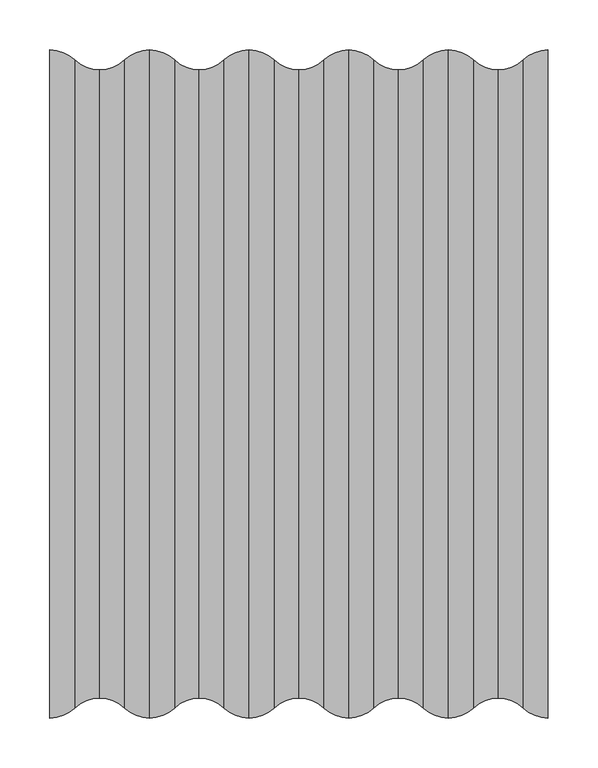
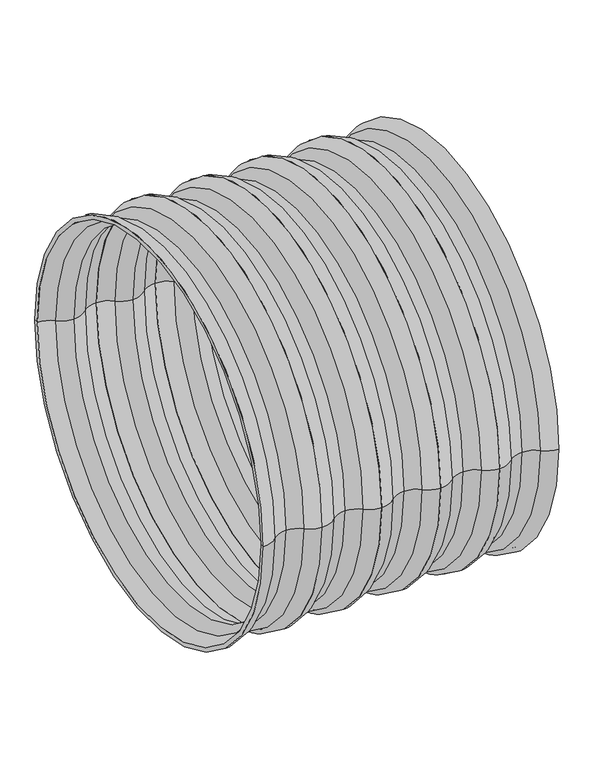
"""IFC4 building model written with IfcOpenShell, lengths in millimetres: pipe fitting geometry, Z_PIF_UN_Q-Bic_Plus_Shaft_Pipe_Wavin_(nested) : PP, RAL8012, ø600mm."""

from ifc_helpers import new_model, si_unit, point, frame, origin, place, context, project, spatial, circle_curve, ellipse_curve, trimmed, source, transform, mapped, element, save
from ifc_brep_helpers import plane_surface, revolved_surface, advanced_brep


def pipe_fitting_1d322cda(model_context):
    return source(origin(), model_context, "Body", "AdvancedBrep", [
        advanced_brep(
        [(900.0, -335.0, 0.0), (900.0, 335.0, 0.0), (925.0, 325.0, 0.0), (925.0, -325.0, 0.0), (900.0, -328.0, 0.0), (900.0, 328.0, 0.0), (925.0, -318.0, 0.0), (925.0, 318.0, 0.0), (950.0, -308.0, 0.0), (950.0, 308.0, 0.0), (975.0, -318.0, 0.0), (975.0, 318.0, 0.0), (1000.0, -328.0, 0.0), (1000.0, 328.0, 0.0), (1000.0, -335.0, 0.0), (1000.0, 335.0, 0.0), (975.0, -325.0, 0.0), (975.0, 325.0, 0.0), (950.0, -315.0, 0.0), (950.0, 315.0, 0.0)],
        [
            (0, 1, circle_curve(frame((900.0, 0.0, 0.0), z_axis=(1.0, 0.0, 0.0), x_axis=(0.0, 1.0, 0.0)), 335.0)),
            (1, 2, circle_curve(frame((900.0, 298.75, 0.0), z_axis=(0.0, 0.0, -1.0), x_axis=(1.0, 0.0, 0.0)), 36.25)),
            (2, 3, circle_curve(frame((925.0, 0.0, 0.0), z_axis=(-1.0, 0.0, 0.0), x_axis=(0.0, 1.0, 0.0)), 325.0)),
            (3, 0, circle_curve(frame((900.0, -298.75, 0.0), z_axis=(0.0, 0.0, -1.0), x_axis=(1.0, 0.0, 0.0)), 36.25)),
            (1, 0, circle_curve(frame((900.0, 0.0, 0.0), z_axis=(1.0, 0.0, 0.0), x_axis=(0.0, 1.0, 0.0)), 335.0)),
            (3, 2, circle_curve(frame((925.0, 0.0, 0.0), z_axis=(-1.0, 0.0, 0.0), x_axis=(0.0, 1.0, 0.0)), 325.0)),
            (4, 5, circle_curve(frame((900.0, 0.0, 0.0), z_axis=(1.0, 0.0, 0.0), x_axis=(0.0, 1.0, 0.0)), 328.0)),
            (5, 1),
            (0, 4),
            (5, 4, circle_curve(frame((900.0, 0.0, 0.0), z_axis=(1.0, 0.0, 0.0), x_axis=(0.0, 1.0, 0.0)), 328.0)),
            (6, 7, circle_curve(frame((925.0, 0.0, 0.0), z_axis=(1.0, 0.0, 0.0), x_axis=(0.0, 1.0, 0.0)), 318.0)),
            (7, 5, circle_curve(frame((900.0, 291.75, 0.0), z_axis=(0.0, 0.0, 1.0), x_axis=(1.0, 0.0, 0.0)), 36.25)),
            (4, 6, circle_curve(frame((900.0, -291.75, 0.0), z_axis=(0.0, 0.0, 1.0), x_axis=(1.0, 0.0, 0.0)), 36.25)),
            (7, 6, circle_curve(frame((925.0, 0.0, 0.0), z_axis=(1.0, 0.0, 0.0), x_axis=(0.0, 1.0, 0.0)), 318.0)),
            (8, 9, circle_curve(frame((950.0, 0.0, 0.0), z_axis=(1.0, 0.0, 0.0), x_axis=(0.0, 1.0, 0.0)), 308.0)),
            (9, 7, circle_curve(frame((950.0, 344.25, 0.0), z_axis=(0.0, 0.0, -1.0), x_axis=(1.0, 0.0, 0.0)), 36.25)),
            (6, 8, circle_curve(frame((950.0, -344.25, 0.0), z_axis=(0.0, 0.0, -1.0), x_axis=(1.0, 0.0, 0.0)), 36.25)),
            (9, 8, circle_curve(frame((950.0, 0.0, 0.0), z_axis=(1.0, 0.0, 0.0), x_axis=(0.0, 1.0, 0.0)), 308.0)),
            (10, 11, circle_curve(frame((975.0, 0.0, 0.0), z_axis=(1.0, 0.0, 0.0), x_axis=(0.0, 1.0, 0.0)), 318.0)),
            (11, 9, circle_curve(frame((950.0, 344.25, 0.0), z_axis=(0.0, 0.0, -1.0), x_axis=(1.0, 0.0, 0.0)), 36.25)),
            (8, 10, circle_curve(frame((950.0, -344.25, 0.0), z_axis=(0.0, 0.0, -1.0), x_axis=(1.0, 0.0, 0.0)), 36.25)),
            (11, 10, circle_curve(frame((975.0, 0.0, 0.0), z_axis=(1.0, 0.0, 0.0), x_axis=(0.0, 1.0, 0.0)), 318.0)),
            (12, 13, circle_curve(frame((1000.0, 0.0, 0.0), z_axis=(1.0, 0.0, 0.0), x_axis=(0.0, 1.0, 0.0)), 328.0)),
            (13, 11, circle_curve(frame((1000.0, 291.75, 0.0), z_axis=(0.0, 0.0, 1.0), x_axis=(1.0, 0.0, 0.0)), 36.25)),
            (10, 12, circle_curve(frame((1000.0, -291.75, 0.0), z_axis=(0.0, 0.0, 1.0), x_axis=(1.0, 0.0, 0.0)), 36.25)),
            (13, 12, circle_curve(frame((1000.0, 0.0, 0.0), z_axis=(1.0, 0.0, 0.0), x_axis=(0.0, 1.0, 0.0)), 328.0)),
            (14, 15, circle_curve(frame((1000.0, 0.0, 0.0), z_axis=(1.0, 0.0, 0.0), x_axis=(0.0, 1.0, 0.0)), 335.0)),
            (15, 13),
            (12, 14),
            (15, 14, circle_curve(frame((1000.0, 0.0, 0.0), z_axis=(1.0, 0.0, 0.0), x_axis=(0.0, 1.0, 0.0)), 335.0)),
            (16, 17, circle_curve(frame((975.0, 0.0, 0.0), z_axis=(1.0, 0.0, 0.0), x_axis=(0.0, 1.0, 0.0)), 325.0)),
            (17, 15, circle_curve(frame((1000.0, 298.75, 0.0), z_axis=(0.0, 0.0, -1.0), x_axis=(1.0, 0.0, 0.0)), 36.25)),
            (14, 16, circle_curve(frame((1000.0, -298.75, 0.0), z_axis=(0.0, 0.0, -1.0), x_axis=(1.0, 0.0, 0.0)), 36.25)),
            (17, 16, circle_curve(frame((975.0, 0.0, 0.0), z_axis=(1.0, 0.0, 0.0), x_axis=(0.0, 1.0, 0.0)), 325.0)),
            (18, 19, circle_curve(frame((950.0, 0.0, 0.0), z_axis=(1.0, 0.0, 0.0), x_axis=(0.0, 1.0, 0.0)), 315.0)),
            (19, 17, circle_curve(frame((950.0, 351.25, 0.0), z_axis=(0.0, 0.0, 1.0), x_axis=(1.0, 0.0, 0.0)), 36.25)),
            (16, 18, circle_curve(frame((950.0, -351.25, 0.0), z_axis=(0.0, 0.0, 1.0), x_axis=(1.0, 0.0, 0.0)), 36.25)),
            (19, 18, circle_curve(frame((950.0, 0.0, 0.0), z_axis=(1.0, 0.0, 0.0), x_axis=(0.0, 1.0, 0.0)), 315.0)),
            (2, 19, circle_curve(frame((950.0, 351.25, 0.0), z_axis=(0.0, 0.0, 1.0), x_axis=(1.0, 0.0, 0.0)), 36.25)),
            (18, 3, circle_curve(frame((950.0, -351.25, 0.0), z_axis=(0.0, 0.0, 1.0), x_axis=(1.0, 0.0, 0.0)), 36.25)),
        ],
        [
            revolved_surface(trimmed(ellipse_curve(frame((900.0, 298.75, 0.0), z_axis=(0.0, 0.0, 1.0), x_axis=(1.0, 0.0, 0.0)), 36.25, 36.25), [point((925.0, 325.0, 0.0))], [point((900.0, 335.0, 0.0))], True, "CARTESIAN"), (850.0, 0.0, 0.0), (-1.0, 0.0, 0.0)),
            plane_surface(frame((900.0, 0.0, 0.0), z_axis=(-1.0, 0.0, 0.0), x_axis=(0.0, 1.0, 0.0))),
            revolved_surface(trimmed(ellipse_curve(frame((900.0, 291.75, 0.0), z_axis=(0.0, 0.0, -1.0), x_axis=(1.0, 0.0, 0.0)), 36.25, 36.25), [point((900.0, 328.0, 0.0))], [point((925.0, 318.0, 0.0))], True, "CARTESIAN"), (850.0, 0.0, 0.0), (-1.0, 0.0, 0.0)),
            revolved_surface(trimmed(ellipse_curve(frame((950.0, 344.25, 0.0), z_axis=(0.0, 0.0, 1.0), x_axis=(1.0, 0.0, 0.0)), 36.25, 36.25), [point((925.0, 318.0, 0.0))], [point((950.0, 308.0, 0.0))], True, "CARTESIAN"), (850.0, 0.0, 0.0), (-1.0, 0.0, 0.0)),
            revolved_surface(trimmed(ellipse_curve(frame((950.0, 344.25, 0.0), z_axis=(0.0, 0.0, 1.0), x_axis=(1.0, 0.0, 0.0)), 36.25, 36.25), [point((950.0, 308.0, 0.0))], [point((975.0, 318.0, 0.0))], True, "CARTESIAN"), (850.0, 0.0, 0.0), (-1.0, 0.0, 0.0)),
            revolved_surface(trimmed(ellipse_curve(frame((1000.0, 291.75, 0.0), z_axis=(0.0, 0.0, -1.0), x_axis=(1.0, 0.0, 0.0)), 36.25, 36.25), [point((975.0, 318.0, 0.0))], [point((1000.0, 328.0, 0.0))], True, "CARTESIAN"), (850.0, 0.0, 0.0), (-1.0, 0.0, 0.0)),
            plane_surface(frame((1000.0, 0.0, 0.0), z_axis=(1.0, 0.0, 0.0), x_axis=(0.0, 1.0, 0.0))),
            revolved_surface(trimmed(ellipse_curve(frame((1000.0, 298.75, 0.0), z_axis=(0.0, 0.0, 1.0), x_axis=(1.0, 0.0, 0.0)), 36.25, 36.25), [point((1000.0, 335.0, 0.0))], [point((975.0, 325.0, 0.0))], True, "CARTESIAN"), (850.0, 0.0, 0.0), (-1.0, 0.0, 0.0)),
            revolved_surface(trimmed(ellipse_curve(frame((950.0, 351.25, 0.0), z_axis=(0.0, 0.0, -1.0), x_axis=(1.0, 0.0, 0.0)), 36.25, 36.25), [point((975.0, 325.0, 0.0))], [point((950.0, 315.0, 0.0))], True, "CARTESIAN"), (850.0, 0.0, 0.0), (-1.0, 0.0, 0.0)),
            revolved_surface(trimmed(ellipse_curve(frame((950.0, 351.25, 0.0), z_axis=(0.0, 0.0, -1.0), x_axis=(1.0, 0.0, 0.0)), 36.25, 36.25), [point((950.0, 315.0, 0.0))], [point((925.0, 325.0, 0.0))], True, "CARTESIAN"), (850.0, 0.0, 0.0), (-1.0, 0.0, 0.0)),
        ],
        [
            (0, [[1, 2, 3, 4]]),
            (0, [[5, -4, 6, -2]]),
            (1, [[7, 8, -1, 9]]),
            (1, [[10, -9, -5, -8]]),
            (2, [[11, 12, -7, 13]]),
            (2, [[14, -13, -10, -12]]),
            (3, [[15, 16, -11, 17]]),
            (3, [[18, -17, -14, -16]]),
            (4, [[19, 20, -15, 21]]),
            (4, [[22, -21, -18, -20]]),
            (5, [[23, 24, -19, 25]]),
            (5, [[26, -25, -22, -24]]),
            (6, [[27, 28, -23, 29]]),
            (6, [[30, -29, -26, -28]]),
            (7, [[31, 32, -27, 33]]),
            (7, [[34, -33, -30, -32]]),
            (8, [[35, 36, -31, 37]]),
            (8, [[38, -37, -34, -36]]),
            (9, [[-3, 39, -35, 40]]),
            (9, [[-6, -40, -38, -39]]),
        ],
    ),
        advanced_brep(
        [(800.0, -335.0, 0.0), (800.0, 335.0, 0.0), (825.0, 325.0, 0.0), (825.0, -325.0, 0.0), (800.0, -328.0, 0.0), (800.0, 328.0, 0.0), (825.0, -318.0, 0.0), (825.0, 318.0, 0.0), (850.0, -308.0, 0.0), (850.0, 308.0, 0.0), (875.0, -318.0, 0.0), (875.0, 318.0, 0.0), (900.0, -328.0, 0.0), (900.0, 328.0, 0.0), (900.0, -335.0, 0.0), (900.0, 335.0, 0.0), (875.0, -325.0, 0.0), (875.0, 325.0, 0.0), (850.0, -315.0, 0.0), (850.0, 315.0, 0.0)],
        [
            (0, 1, circle_curve(frame((800.0, 0.0, 0.0), z_axis=(1.0, 0.0, 0.0), x_axis=(0.0, 1.0, 0.0)), 335.0)),
            (1, 2, circle_curve(frame((800.0, 298.75, 0.0), z_axis=(0.0, 0.0, -1.0), x_axis=(1.0, 0.0, 0.0)), 36.25)),
            (2, 3, circle_curve(frame((825.0, 0.0, 0.0), z_axis=(-1.0, 0.0, 0.0), x_axis=(0.0, 1.0, 0.0)), 325.0)),
            (3, 0, circle_curve(frame((800.0, -298.75, 0.0), z_axis=(0.0, 0.0, -1.0), x_axis=(1.0, 0.0, 0.0)), 36.25)),
            (1, 0, circle_curve(frame((800.0, 0.0, 0.0), z_axis=(1.0, 0.0, 0.0), x_axis=(0.0, 1.0, 0.0)), 335.0)),
            (3, 2, circle_curve(frame((825.0, 0.0, 0.0), z_axis=(-1.0, 0.0, 0.0), x_axis=(0.0, 1.0, 0.0)), 325.0)),
            (4, 5, circle_curve(frame((800.0, 0.0, 0.0), z_axis=(1.0, 0.0, 0.0), x_axis=(0.0, 1.0, 0.0)), 328.0)),
            (5, 1),
            (0, 4),
            (5, 4, circle_curve(frame((800.0, 0.0, 0.0), z_axis=(1.0, 0.0, 0.0), x_axis=(0.0, 1.0, 0.0)), 328.0)),
            (6, 7, circle_curve(frame((825.0, 0.0, 0.0), z_axis=(1.0, 0.0, 0.0), x_axis=(0.0, 1.0, 0.0)), 318.0)),
            (7, 5, circle_curve(frame((800.0, 291.75, 0.0), z_axis=(0.0, 0.0, 1.0), x_axis=(1.0, 0.0, 0.0)), 36.25)),
            (4, 6, circle_curve(frame((800.0, -291.75, 0.0), z_axis=(0.0, 0.0, 1.0), x_axis=(1.0, 0.0, 0.0)), 36.25)),
            (7, 6, circle_curve(frame((825.0, 0.0, 0.0), z_axis=(1.0, 0.0, 0.0), x_axis=(0.0, 1.0, 0.0)), 318.0)),
            (8, 9, circle_curve(frame((850.0, 0.0, 0.0), z_axis=(1.0, 0.0, 0.0), x_axis=(0.0, 1.0, 0.0)), 308.0)),
            (9, 7, circle_curve(frame((850.0, 344.25, 0.0), z_axis=(0.0, 0.0, -1.0), x_axis=(1.0, 0.0, 0.0)), 36.25)),
            (6, 8, circle_curve(frame((850.0, -344.25, 0.0), z_axis=(0.0, 0.0, -1.0), x_axis=(1.0, 0.0, 0.0)), 36.25)),
            (9, 8, circle_curve(frame((850.0, 0.0, 0.0), z_axis=(1.0, 0.0, 0.0), x_axis=(0.0, 1.0, 0.0)), 308.0)),
            (10, 11, circle_curve(frame((875.0, 0.0, 0.0), z_axis=(1.0, 0.0, 0.0), x_axis=(0.0, 1.0, 0.0)), 318.0)),
            (11, 9, circle_curve(frame((850.0, 344.25, 0.0), z_axis=(0.0, 0.0, -1.0), x_axis=(1.0, 0.0, 0.0)), 36.25)),
            (8, 10, circle_curve(frame((850.0, -344.25, 0.0), z_axis=(0.0, 0.0, -1.0), x_axis=(1.0, 0.0, 0.0)), 36.25)),
            (11, 10, circle_curve(frame((875.0, 0.0, 0.0), z_axis=(1.0, 0.0, 0.0), x_axis=(0.0, 1.0, 0.0)), 318.0)),
            (12, 13, circle_curve(frame((900.0, 0.0, 0.0), z_axis=(1.0, 0.0, 0.0), x_axis=(0.0, 1.0, 0.0)), 328.0)),
            (13, 11, circle_curve(frame((900.0, 291.75, 0.0), z_axis=(0.0, 0.0, 1.0), x_axis=(1.0, 0.0, 0.0)), 36.25)),
            (10, 12, circle_curve(frame((900.0, -291.75, 0.0), z_axis=(0.0, 0.0, 1.0), x_axis=(1.0, 0.0, 0.0)), 36.25)),
            (13, 12, circle_curve(frame((900.0, 0.0, 0.0), z_axis=(1.0, 0.0, 0.0), x_axis=(0.0, 1.0, 0.0)), 328.0)),
            (14, 15, circle_curve(frame((900.0, 0.0, 0.0), z_axis=(1.0, 0.0, 0.0), x_axis=(0.0, 1.0, 0.0)), 335.0)),
            (15, 13),
            (12, 14),
            (15, 14, circle_curve(frame((900.0, 0.0, 0.0), z_axis=(1.0, 0.0, 0.0), x_axis=(0.0, 1.0, 0.0)), 335.0)),
            (16, 17, circle_curve(frame((875.0, 0.0, 0.0), z_axis=(1.0, 0.0, 0.0), x_axis=(0.0, 1.0, 0.0)), 325.0)),
            (17, 15, circle_curve(frame((900.0, 298.75, 0.0), z_axis=(0.0, 0.0, -1.0), x_axis=(1.0, 0.0, 0.0)), 36.25)),
            (14, 16, circle_curve(frame((900.0, -298.75, 0.0), z_axis=(0.0, 0.0, -1.0), x_axis=(1.0, 0.0, 0.0)), 36.25)),
            (17, 16, circle_curve(frame((875.0, 0.0, 0.0), z_axis=(1.0, 0.0, 0.0), x_axis=(0.0, 1.0, 0.0)), 325.0)),
            (18, 19, circle_curve(frame((850.0, 0.0, 0.0), z_axis=(1.0, 0.0, 0.0), x_axis=(0.0, 1.0, 0.0)), 315.0)),
            (19, 17, circle_curve(frame((850.0, 351.25, 0.0), z_axis=(0.0, 0.0, 1.0), x_axis=(1.0, 0.0, 0.0)), 36.25)),
            (16, 18, circle_curve(frame((850.0, -351.25, 0.0), z_axis=(0.0, 0.0, 1.0), x_axis=(1.0, 0.0, 0.0)), 36.25)),
            (19, 18, circle_curve(frame((850.0, 0.0, 0.0), z_axis=(1.0, 0.0, 0.0), x_axis=(0.0, 1.0, 0.0)), 315.0)),
            (2, 19, circle_curve(frame((850.0, 351.25, 0.0), z_axis=(0.0, 0.0, 1.0), x_axis=(1.0, 0.0, 0.0)), 36.25)),
            (18, 3, circle_curve(frame((850.0, -351.25, 0.0), z_axis=(0.0, 0.0, 1.0), x_axis=(1.0, 0.0, 0.0)), 36.25)),
        ],
        [
            revolved_surface(trimmed(ellipse_curve(frame((800.0, 298.75, 0.0), z_axis=(0.0, 0.0, 1.0), x_axis=(1.0, 0.0, 0.0)), 36.25, 36.25), [point((825.0, 325.0, 0.0))], [point((800.0, 335.0, 0.0))], True, "CARTESIAN"), (750.0, 0.0, 0.0), (-1.0, 0.0, 0.0)),
            plane_surface(frame((800.0, 0.0, 0.0), z_axis=(-1.0, 0.0, 0.0), x_axis=(0.0, 1.0, 0.0))),
            revolved_surface(trimmed(ellipse_curve(frame((800.0, 291.75, 0.0), z_axis=(0.0, 0.0, -1.0), x_axis=(1.0, 0.0, 0.0)), 36.25, 36.25), [point((800.0, 328.0, 0.0))], [point((825.0, 318.0, 0.0))], True, "CARTESIAN"), (750.0, 0.0, 0.0), (-1.0, 0.0, 0.0)),
            revolved_surface(trimmed(ellipse_curve(frame((850.0, 344.25, 0.0), z_axis=(0.0, 0.0, 1.0), x_axis=(1.0, 0.0, 0.0)), 36.25, 36.25), [point((825.0, 318.0, 0.0))], [point((850.0, 308.0, 0.0))], True, "CARTESIAN"), (750.0, 0.0, 0.0), (-1.0, 0.0, 0.0)),
            revolved_surface(trimmed(ellipse_curve(frame((850.0, 344.25, 0.0), z_axis=(0.0, 0.0, 1.0), x_axis=(1.0, 0.0, 0.0)), 36.25, 36.25), [point((850.0, 308.0, 0.0))], [point((875.0, 318.0, 0.0))], True, "CARTESIAN"), (750.0, 0.0, 0.0), (-1.0, 0.0, 0.0)),
            revolved_surface(trimmed(ellipse_curve(frame((900.0, 291.75, 0.0), z_axis=(0.0, 0.0, -1.0), x_axis=(1.0, 0.0, 0.0)), 36.25, 36.25), [point((875.0, 318.0, 0.0))], [point((900.0, 328.0, 0.0))], True, "CARTESIAN"), (750.0, 0.0, 0.0), (-1.0, 0.0, 0.0)),
            plane_surface(frame((900.0, 0.0, 0.0), z_axis=(1.0, 0.0, 0.0), x_axis=(0.0, 1.0, 0.0))),
            revolved_surface(trimmed(ellipse_curve(frame((900.0, 298.75, 0.0), z_axis=(0.0, 0.0, 1.0), x_axis=(1.0, 0.0, 0.0)), 36.25, 36.25), [point((900.0, 335.0, 0.0))], [point((875.0, 325.0, 0.0))], True, "CARTESIAN"), (750.0, 0.0, 0.0), (-1.0, 0.0, 0.0)),
            revolved_surface(trimmed(ellipse_curve(frame((850.0, 351.25, 0.0), z_axis=(0.0, 0.0, -1.0), x_axis=(1.0, 0.0, 0.0)), 36.25, 36.25), [point((875.0, 325.0, 0.0))], [point((850.0, 315.0, 0.0))], True, "CARTESIAN"), (750.0, 0.0, 0.0), (-1.0, 0.0, 0.0)),
            revolved_surface(trimmed(ellipse_curve(frame((850.0, 351.25, 0.0), z_axis=(0.0, 0.0, -1.0), x_axis=(1.0, 0.0, 0.0)), 36.25, 36.25), [point((850.0, 315.0, 0.0))], [point((825.0, 325.0, 0.0))], True, "CARTESIAN"), (750.0, 0.0, 0.0), (-1.0, 0.0, 0.0)),
        ],
        [
            (0, [[1, 2, 3, 4]]),
            (0, [[5, -4, 6, -2]]),
            (1, [[7, 8, -1, 9]]),
            (1, [[10, -9, -5, -8]]),
            (2, [[11, 12, -7, 13]]),
            (2, [[14, -13, -10, -12]]),
            (3, [[15, 16, -11, 17]]),
            (3, [[18, -17, -14, -16]]),
            (4, [[19, 20, -15, 21]]),
            (4, [[22, -21, -18, -20]]),
            (5, [[23, 24, -19, 25]]),
            (5, [[26, -25, -22, -24]]),
            (6, [[27, 28, -23, 29]]),
            (6, [[30, -29, -26, -28]]),
            (7, [[31, 32, -27, 33]]),
            (7, [[34, -33, -30, -32]]),
            (8, [[35, 36, -31, 37]]),
            (8, [[38, -37, -34, -36]]),
            (9, [[-3, 39, -35, 40]]),
            (9, [[-6, -40, -38, -39]]),
        ],
    ),
        advanced_brep(
        [(700.0, -335.0, 0.0), (700.0, 335.0, 0.0), (725.0, 325.0, 0.0), (725.0, -325.0, 0.0), (700.0, -328.0, 0.0), (700.0, 328.0, 0.0), (725.0, -318.0, 0.0), (725.0, 318.0, 0.0), (750.0, -308.0, 0.0), (750.0, 308.0, 0.0), (775.0, -318.0, 0.0), (775.0, 318.0, 0.0), (800.0, -328.0, 0.0), (800.0, 328.0, 0.0), (800.0, -335.0, 0.0), (800.0, 335.0, 0.0), (775.0, -325.0, 0.0), (775.0, 325.0, 0.0), (750.0, -315.0, 0.0), (750.0, 315.0, 0.0)],
        [
            (0, 1, circle_curve(frame((700.0, 0.0, 0.0), z_axis=(1.0, 0.0, 0.0), x_axis=(0.0, 1.0, 0.0)), 335.0)),
            (1, 2, circle_curve(frame((700.0, 298.75, 0.0), z_axis=(0.0, 0.0, -1.0), x_axis=(1.0, 0.0, 0.0)), 36.25)),
            (2, 3, circle_curve(frame((725.0, 0.0, 0.0), z_axis=(-1.0, 0.0, 0.0), x_axis=(0.0, 1.0, 0.0)), 325.0)),
            (3, 0, circle_curve(frame((700.0, -298.75, 0.0), z_axis=(0.0, 0.0, -1.0), x_axis=(1.0, 0.0, 0.0)), 36.25)),
            (1, 0, circle_curve(frame((700.0, 0.0, 0.0), z_axis=(1.0, 0.0, 0.0), x_axis=(0.0, 1.0, 0.0)), 335.0)),
            (3, 2, circle_curve(frame((725.0, 0.0, 0.0), z_axis=(-1.0, 0.0, 0.0), x_axis=(0.0, 1.0, 0.0)), 325.0)),
            (4, 5, circle_curve(frame((700.0, 0.0, 0.0), z_axis=(1.0, 0.0, 0.0), x_axis=(0.0, 1.0, 0.0)), 328.0)),
            (5, 1),
            (0, 4),
            (5, 4, circle_curve(frame((700.0, 0.0, 0.0), z_axis=(1.0, 0.0, 0.0), x_axis=(0.0, 1.0, 0.0)), 328.0)),
            (6, 7, circle_curve(frame((725.0, 0.0, 0.0), z_axis=(1.0, 0.0, 0.0), x_axis=(0.0, 1.0, 0.0)), 318.0)),
            (7, 5, circle_curve(frame((700.0, 291.75, 0.0), z_axis=(0.0, 0.0, 1.0), x_axis=(1.0, 0.0, 0.0)), 36.25)),
            (4, 6, circle_curve(frame((700.0, -291.75, 0.0), z_axis=(0.0, 0.0, 1.0), x_axis=(1.0, 0.0, 0.0)), 36.25)),
            (7, 6, circle_curve(frame((725.0, 0.0, 0.0), z_axis=(1.0, 0.0, 0.0), x_axis=(0.0, 1.0, 0.0)), 318.0)),
            (8, 9, circle_curve(frame((750.0, 0.0, 0.0), z_axis=(1.0, 0.0, 0.0), x_axis=(0.0, 1.0, 0.0)), 308.0)),
            (9, 7, circle_curve(frame((750.0, 344.25, 0.0), z_axis=(0.0, 0.0, -1.0), x_axis=(1.0, 0.0, 0.0)), 36.25)),
            (6, 8, circle_curve(frame((750.0, -344.25, 0.0), z_axis=(0.0, 0.0, -1.0), x_axis=(1.0, 0.0, 0.0)), 36.25)),
            (9, 8, circle_curve(frame((750.0, 0.0, 0.0), z_axis=(1.0, 0.0, 0.0), x_axis=(0.0, 1.0, 0.0)), 308.0)),
            (10, 11, circle_curve(frame((775.0, 0.0, 0.0), z_axis=(1.0, 0.0, 0.0), x_axis=(0.0, 1.0, 0.0)), 318.0)),
            (11, 9, circle_curve(frame((750.0, 344.25, 0.0), z_axis=(0.0, 0.0, -1.0), x_axis=(1.0, 0.0, 0.0)), 36.25)),
            (8, 10, circle_curve(frame((750.0, -344.25, 0.0), z_axis=(0.0, 0.0, -1.0), x_axis=(1.0, 0.0, 0.0)), 36.25)),
            (11, 10, circle_curve(frame((775.0, 0.0, 0.0), z_axis=(1.0, 0.0, 0.0), x_axis=(0.0, 1.0, 0.0)), 318.0)),
            (12, 13, circle_curve(frame((800.0, 0.0, 0.0), z_axis=(1.0, 0.0, 0.0), x_axis=(0.0, 1.0, 0.0)), 328.0)),
            (13, 11, circle_curve(frame((800.0, 291.75, 0.0), z_axis=(0.0, 0.0, 1.0), x_axis=(1.0, 0.0, 0.0)), 36.25)),
            (10, 12, circle_curve(frame((800.0, -291.75, 0.0), z_axis=(0.0, 0.0, 1.0), x_axis=(1.0, 0.0, 0.0)), 36.25)),
            (13, 12, circle_curve(frame((800.0, 0.0, 0.0), z_axis=(1.0, 0.0, 0.0), x_axis=(0.0, 1.0, 0.0)), 328.0)),
            (14, 15, circle_curve(frame((800.0, 0.0, 0.0), z_axis=(1.0, 0.0, 0.0), x_axis=(0.0, 1.0, 0.0)), 335.0)),
            (15, 13),
            (12, 14),
            (15, 14, circle_curve(frame((800.0, 0.0, 0.0), z_axis=(1.0, 0.0, 0.0), x_axis=(0.0, 1.0, 0.0)), 335.0)),
            (16, 17, circle_curve(frame((775.0, 0.0, 0.0), z_axis=(1.0, 0.0, 0.0), x_axis=(0.0, 1.0, 0.0)), 325.0)),
            (17, 15, circle_curve(frame((800.0, 298.75, 0.0), z_axis=(0.0, 0.0, -1.0), x_axis=(1.0, 0.0, 0.0)), 36.25)),
            (14, 16, circle_curve(frame((800.0, -298.75, 0.0), z_axis=(0.0, 0.0, -1.0), x_axis=(1.0, 0.0, 0.0)), 36.25)),
            (17, 16, circle_curve(frame((775.0, 0.0, 0.0), z_axis=(1.0, 0.0, 0.0), x_axis=(0.0, 1.0, 0.0)), 325.0)),
            (18, 19, circle_curve(frame((750.0, 0.0, 0.0), z_axis=(1.0, 0.0, 0.0), x_axis=(0.0, 1.0, 0.0)), 315.0)),
            (19, 17, circle_curve(frame((750.0, 351.25, 0.0), z_axis=(0.0, 0.0, 1.0), x_axis=(1.0, 0.0, 0.0)), 36.25)),
            (16, 18, circle_curve(frame((750.0, -351.25, 0.0), z_axis=(0.0, 0.0, 1.0), x_axis=(1.0, 0.0, 0.0)), 36.25)),
            (19, 18, circle_curve(frame((750.0, 0.0, 0.0), z_axis=(1.0, 0.0, 0.0), x_axis=(0.0, 1.0, 0.0)), 315.0)),
            (2, 19, circle_curve(frame((750.0, 351.25, 0.0), z_axis=(0.0, 0.0, 1.0), x_axis=(1.0, 0.0, 0.0)), 36.25)),
            (18, 3, circle_curve(frame((750.0, -351.25, 0.0), z_axis=(0.0, 0.0, 1.0), x_axis=(1.0, 0.0, 0.0)), 36.25)),
        ],
        [
            revolved_surface(trimmed(ellipse_curve(frame((700.0, 298.75, 0.0), z_axis=(0.0, 0.0, 1.0), x_axis=(1.0, 0.0, 0.0)), 36.25, 36.25), [point((725.0, 325.0, 0.0))], [point((700.0, 335.0, 0.0))], True, "CARTESIAN"), (650.0, 0.0, 0.0), (-1.0, 0.0, 0.0)),
            plane_surface(frame((700.0, 0.0, 0.0), z_axis=(-1.0, 0.0, 0.0), x_axis=(0.0, 1.0, 0.0))),
            revolved_surface(trimmed(ellipse_curve(frame((700.0, 291.75, 0.0), z_axis=(0.0, 0.0, -1.0), x_axis=(1.0, 0.0, 0.0)), 36.25, 36.25), [point((700.0, 328.0, 0.0))], [point((725.0, 318.0, 0.0))], True, "CARTESIAN"), (650.0, 0.0, 0.0), (-1.0, 0.0, 0.0)),
            revolved_surface(trimmed(ellipse_curve(frame((750.0, 344.25, 0.0), z_axis=(0.0, 0.0, 1.0), x_axis=(1.0, 0.0, 0.0)), 36.25, 36.25), [point((725.0, 318.0, 0.0))], [point((750.0, 308.0, 0.0))], True, "CARTESIAN"), (650.0, 0.0, 0.0), (-1.0, 0.0, 0.0)),
            revolved_surface(trimmed(ellipse_curve(frame((750.0, 344.25, 0.0), z_axis=(0.0, 0.0, 1.0), x_axis=(1.0, 0.0, 0.0)), 36.25, 36.25), [point((750.0, 308.0, 0.0))], [point((775.0, 318.0, 0.0))], True, "CARTESIAN"), (650.0, 0.0, 0.0), (-1.0, 0.0, 0.0)),
            revolved_surface(trimmed(ellipse_curve(frame((800.0, 291.75, 0.0), z_axis=(0.0, 0.0, -1.0), x_axis=(1.0, 0.0, 0.0)), 36.25, 36.25), [point((775.0, 318.0, 0.0))], [point((800.0, 328.0, 0.0))], True, "CARTESIAN"), (650.0, 0.0, 0.0), (-1.0, 0.0, 0.0)),
            plane_surface(frame((800.0, 0.0, 0.0), z_axis=(1.0, 0.0, 0.0), x_axis=(0.0, 1.0, 0.0))),
            revolved_surface(trimmed(ellipse_curve(frame((800.0, 298.75, 0.0), z_axis=(0.0, 0.0, 1.0), x_axis=(1.0, 0.0, 0.0)), 36.25, 36.25), [point((800.0, 335.0, 0.0))], [point((775.0, 325.0, 0.0))], True, "CARTESIAN"), (650.0, 0.0, 0.0), (-1.0, 0.0, 0.0)),
            revolved_surface(trimmed(ellipse_curve(frame((750.0, 351.25, 0.0), z_axis=(0.0, 0.0, -1.0), x_axis=(1.0, 0.0, 0.0)), 36.25, 36.25), [point((775.0, 325.0, 0.0))], [point((750.0, 315.0, 0.0))], True, "CARTESIAN"), (650.0, 0.0, 0.0), (-1.0, 0.0, 0.0)),
            revolved_surface(trimmed(ellipse_curve(frame((750.0, 351.25, 0.0), z_axis=(0.0, 0.0, -1.0), x_axis=(1.0, 0.0, 0.0)), 36.25, 36.25), [point((750.0, 315.0, 0.0))], [point((725.0, 325.0, 0.0))], True, "CARTESIAN"), (650.0, 0.0, 0.0), (-1.0, 0.0, 0.0)),
        ],
        [
            (0, [[1, 2, 3, 4]]),
            (0, [[5, -4, 6, -2]]),
            (1, [[7, 8, -1, 9]]),
            (1, [[10, -9, -5, -8]]),
            (2, [[11, 12, -7, 13]]),
            (2, [[14, -13, -10, -12]]),
            (3, [[15, 16, -11, 17]]),
            (3, [[18, -17, -14, -16]]),
            (4, [[19, 20, -15, 21]]),
            (4, [[22, -21, -18, -20]]),
            (5, [[23, 24, -19, 25]]),
            (5, [[26, -25, -22, -24]]),
            (6, [[27, 28, -23, 29]]),
            (6, [[30, -29, -26, -28]]),
            (7, [[31, 32, -27, 33]]),
            (7, [[34, -33, -30, -32]]),
            (8, [[35, 36, -31, 37]]),
            (8, [[38, -37, -34, -36]]),
            (9, [[-3, 39, -35, 40]]),
            (9, [[-6, -40, -38, -39]]),
        ],
    ),
        advanced_brep(
        [(600.0, -335.0, 0.0), (600.0, 335.0, 0.0), (625.0, 325.0, 0.0), (625.0, -325.0, 0.0), (600.0, -328.0, 0.0), (600.0, 328.0, 0.0), (625.0, -318.0, 0.0), (625.0, 318.0, 0.0), (650.0, -308.0, 0.0), (650.0, 308.0, 0.0), (675.0, -318.0, 0.0), (675.0, 318.0, 0.0), (700.0, -328.0, 0.0), (700.0, 328.0, 0.0), (700.0, -335.0, 0.0), (700.0, 335.0, 0.0), (675.0, -325.0, 0.0), (675.0, 325.0, 0.0), (650.0, -315.0, 0.0), (650.0, 315.0, 0.0)],
        [
            (0, 1, circle_curve(frame((600.0, 0.0, 0.0), z_axis=(1.0, 0.0, 0.0), x_axis=(0.0, 1.0, 0.0)), 335.0)),
            (1, 2, circle_curve(frame((600.0, 298.75, 0.0), z_axis=(0.0, 0.0, -1.0), x_axis=(1.0, 0.0, 0.0)), 36.25)),
            (2, 3, circle_curve(frame((625.0, 0.0, 0.0), z_axis=(-1.0, 0.0, 0.0), x_axis=(0.0, 1.0, 0.0)), 325.0)),
            (3, 0, circle_curve(frame((600.0, -298.75, 0.0), z_axis=(0.0, 0.0, -1.0), x_axis=(1.0, 0.0, 0.0)), 36.25)),
            (1, 0, circle_curve(frame((600.0, 0.0, 0.0), z_axis=(1.0, 0.0, 0.0), x_axis=(0.0, 1.0, 0.0)), 335.0)),
            (3, 2, circle_curve(frame((625.0, 0.0, 0.0), z_axis=(-1.0, 0.0, 0.0), x_axis=(0.0, 1.0, 0.0)), 325.0)),
            (4, 5, circle_curve(frame((600.0, 0.0, 0.0), z_axis=(1.0, 0.0, 0.0), x_axis=(0.0, 1.0, 0.0)), 328.0)),
            (5, 1),
            (0, 4),
            (5, 4, circle_curve(frame((600.0, 0.0, 0.0), z_axis=(1.0, 0.0, 0.0), x_axis=(0.0, 1.0, 0.0)), 328.0)),
            (6, 7, circle_curve(frame((625.0, 0.0, 0.0), z_axis=(1.0, 0.0, 0.0), x_axis=(0.0, 1.0, 0.0)), 318.0)),
            (7, 5, circle_curve(frame((600.0, 291.75, 0.0), z_axis=(0.0, 0.0, 1.0), x_axis=(1.0, 0.0, 0.0)), 36.25)),
            (4, 6, circle_curve(frame((600.0, -291.75, 0.0), z_axis=(0.0, 0.0, 1.0), x_axis=(1.0, 0.0, 0.0)), 36.25)),
            (7, 6, circle_curve(frame((625.0, 0.0, 0.0), z_axis=(1.0, 0.0, 0.0), x_axis=(0.0, 1.0, 0.0)), 318.0)),
            (8, 9, circle_curve(frame((650.0, 0.0, 0.0), z_axis=(1.0, 0.0, 0.0), x_axis=(0.0, 1.0, 0.0)), 308.0)),
            (9, 7, circle_curve(frame((650.0, 344.25, 0.0), z_axis=(0.0, 0.0, -1.0), x_axis=(1.0, 0.0, 0.0)), 36.25)),
            (6, 8, circle_curve(frame((650.0, -344.25, 0.0), z_axis=(0.0, 0.0, -1.0), x_axis=(1.0, 0.0, 0.0)), 36.25)),
            (9, 8, circle_curve(frame((650.0, 0.0, 0.0), z_axis=(1.0, 0.0, 0.0), x_axis=(0.0, 1.0, 0.0)), 308.0)),
            (10, 11, circle_curve(frame((675.0, 0.0, 0.0), z_axis=(1.0, 0.0, 0.0), x_axis=(0.0, 1.0, 0.0)), 318.0)),
            (11, 9, circle_curve(frame((650.0, 344.25, 0.0), z_axis=(0.0, 0.0, -1.0), x_axis=(1.0, 0.0, 0.0)), 36.25)),
            (8, 10, circle_curve(frame((650.0, -344.25, 0.0), z_axis=(0.0, 0.0, -1.0), x_axis=(1.0, 0.0, 0.0)), 36.25)),
            (11, 10, circle_curve(frame((675.0, 0.0, 0.0), z_axis=(1.0, 0.0, 0.0), x_axis=(0.0, 1.0, 0.0)), 318.0)),
            (12, 13, circle_curve(frame((700.0, 0.0, 0.0), z_axis=(1.0, 0.0, 0.0), x_axis=(0.0, 1.0, 0.0)), 328.0)),
            (13, 11, circle_curve(frame((700.0, 291.75, 0.0), z_axis=(0.0, 0.0, 1.0), x_axis=(1.0, 0.0, 0.0)), 36.25)),
            (10, 12, circle_curve(frame((700.0, -291.75, 0.0), z_axis=(0.0, 0.0, 1.0), x_axis=(1.0, 0.0, 0.0)), 36.25)),
            (13, 12, circle_curve(frame((700.0, 0.0, 0.0), z_axis=(1.0, 0.0, 0.0), x_axis=(0.0, 1.0, 0.0)), 328.0)),
            (14, 15, circle_curve(frame((700.0, 0.0, 0.0), z_axis=(1.0, 0.0, 0.0), x_axis=(0.0, 1.0, 0.0)), 335.0)),
            (15, 13),
            (12, 14),
            (15, 14, circle_curve(frame((700.0, 0.0, 0.0), z_axis=(1.0, 0.0, 0.0), x_axis=(0.0, 1.0, 0.0)), 335.0)),
            (16, 17, circle_curve(frame((675.0, 0.0, 0.0), z_axis=(1.0, 0.0, 0.0), x_axis=(0.0, 1.0, 0.0)), 325.0)),
            (17, 15, circle_curve(frame((700.0, 298.75, 0.0), z_axis=(0.0, 0.0, -1.0), x_axis=(1.0, 0.0, 0.0)), 36.25)),
            (14, 16, circle_curve(frame((700.0, -298.75, 0.0), z_axis=(0.0, 0.0, -1.0), x_axis=(1.0, 0.0, 0.0)), 36.25)),
            (17, 16, circle_curve(frame((675.0, 0.0, 0.0), z_axis=(1.0, 0.0, 0.0), x_axis=(0.0, 1.0, 0.0)), 325.0)),
            (18, 19, circle_curve(frame((650.0, 0.0, 0.0), z_axis=(1.0, 0.0, 0.0), x_axis=(0.0, 1.0, 0.0)), 315.0)),
            (19, 17, circle_curve(frame((650.0, 351.25, 0.0), z_axis=(0.0, 0.0, 1.0), x_axis=(1.0, 0.0, 0.0)), 36.25)),
            (16, 18, circle_curve(frame((650.0, -351.25, 0.0), z_axis=(0.0, 0.0, 1.0), x_axis=(1.0, 0.0, 0.0)), 36.25)),
            (19, 18, circle_curve(frame((650.0, 0.0, 0.0), z_axis=(1.0, 0.0, 0.0), x_axis=(0.0, 1.0, 0.0)), 315.0)),
            (2, 19, circle_curve(frame((650.0, 351.25, 0.0), z_axis=(0.0, 0.0, 1.0), x_axis=(1.0, 0.0, 0.0)), 36.25)),
            (18, 3, circle_curve(frame((650.0, -351.25, 0.0), z_axis=(0.0, 0.0, 1.0), x_axis=(1.0, 0.0, 0.0)), 36.25)),
        ],
        [
            revolved_surface(trimmed(ellipse_curve(frame((600.0, 298.75, 0.0), z_axis=(0.0, 0.0, 1.0), x_axis=(1.0, 0.0, 0.0)), 36.25, 36.25), [point((625.0, 325.0, 0.0))], [point((600.0, 335.0, 0.0))], True, "CARTESIAN"), (550.0, 0.0, 0.0), (-1.0, 0.0, 0.0)),
            plane_surface(frame((600.0, 0.0, 0.0), z_axis=(-1.0, 0.0, 0.0), x_axis=(0.0, 1.0, 0.0))),
            revolved_surface(trimmed(ellipse_curve(frame((600.0, 291.75, 0.0), z_axis=(0.0, 0.0, -1.0), x_axis=(1.0, 0.0, 0.0)), 36.25, 36.25), [point((600.0, 328.0, 0.0))], [point((625.0, 318.0, 0.0))], True, "CARTESIAN"), (550.0, 0.0, 0.0), (-1.0, 0.0, 0.0)),
            revolved_surface(trimmed(ellipse_curve(frame((650.0, 344.25, 0.0), z_axis=(0.0, 0.0, 1.0), x_axis=(1.0, 0.0, 0.0)), 36.25, 36.25), [point((625.0, 318.0, 0.0))], [point((650.0, 308.0, 0.0))], True, "CARTESIAN"), (550.0, 0.0, 0.0), (-1.0, 0.0, 0.0)),
            revolved_surface(trimmed(ellipse_curve(frame((650.0, 344.25, 0.0), z_axis=(0.0, 0.0, 1.0), x_axis=(1.0, 0.0, 0.0)), 36.25, 36.25), [point((650.0, 308.0, 0.0))], [point((675.0, 318.0, 0.0))], True, "CARTESIAN"), (550.0, 0.0, 0.0), (-1.0, 0.0, 0.0)),
            revolved_surface(trimmed(ellipse_curve(frame((700.0, 291.75, 0.0), z_axis=(0.0, 0.0, -1.0), x_axis=(1.0, 0.0, 0.0)), 36.25, 36.25), [point((675.0, 318.0, 0.0))], [point((700.0, 328.0, 0.0))], True, "CARTESIAN"), (550.0, 0.0, 0.0), (-1.0, 0.0, 0.0)),
            plane_surface(frame((700.0, 0.0, 0.0), z_axis=(1.0, 0.0, 0.0), x_axis=(0.0, 1.0, 0.0))),
            revolved_surface(trimmed(ellipse_curve(frame((700.0, 298.75, 0.0), z_axis=(0.0, 0.0, 1.0), x_axis=(1.0, 0.0, 0.0)), 36.25, 36.25), [point((700.0, 335.0, 0.0))], [point((675.0, 325.0, 0.0))], True, "CARTESIAN"), (550.0, 0.0, 0.0), (-1.0, 0.0, 0.0)),
            revolved_surface(trimmed(ellipse_curve(frame((650.0, 351.25, 0.0), z_axis=(0.0, 0.0, -1.0), x_axis=(1.0, 0.0, 0.0)), 36.25, 36.25), [point((675.0, 325.0, 0.0))], [point((650.0, 315.0, 0.0))], True, "CARTESIAN"), (550.0, 0.0, 0.0), (-1.0, 0.0, 0.0)),
            revolved_surface(trimmed(ellipse_curve(frame((650.0, 351.25, 0.0), z_axis=(0.0, 0.0, -1.0), x_axis=(1.0, 0.0, 0.0)), 36.25, 36.25), [point((650.0, 315.0, 0.0))], [point((625.0, 325.0, 0.0))], True, "CARTESIAN"), (550.0, 0.0, 0.0), (-1.0, 0.0, 0.0)),
        ],
        [
            (0, [[1, 2, 3, 4]]),
            (0, [[5, -4, 6, -2]]),
            (1, [[7, 8, -1, 9]]),
            (1, [[10, -9, -5, -8]]),
            (2, [[11, 12, -7, 13]]),
            (2, [[14, -13, -10, -12]]),
            (3, [[15, 16, -11, 17]]),
            (3, [[18, -17, -14, -16]]),
            (4, [[19, 20, -15, 21]]),
            (4, [[22, -21, -18, -20]]),
            (5, [[23, 24, -19, 25]]),
            (5, [[26, -25, -22, -24]]),
            (6, [[27, 28, -23, 29]]),
            (6, [[30, -29, -26, -28]]),
            (7, [[31, 32, -27, 33]]),
            (7, [[34, -33, -30, -32]]),
            (8, [[35, 36, -31, 37]]),
            (8, [[38, -37, -34, -36]]),
            (9, [[-3, 39, -35, 40]]),
            (9, [[-6, -40, -38, -39]]),
        ],
    ),
        advanced_brep(
        [(500.0, -335.0, 0.0), (500.0, 335.0, 0.0), (525.0, 325.0, 0.0), (525.0, -325.0, 0.0), (500.0, -328.0, 0.0), (500.0, 328.0, 0.0), (525.0, -318.0, 0.0), (525.0, 318.0, 0.0), (550.0, -308.0, 0.0), (550.0, 308.0, 0.0), (575.0, -318.0, 0.0), (575.0, 318.0, 0.0), (600.0, -328.0, 0.0), (600.0, 328.0, 0.0), (600.0, -335.0, 0.0), (600.0, 335.0, 0.0), (575.0, -325.0, 0.0), (575.0, 325.0, 0.0), (550.0, -315.0, 0.0), (550.0, 315.0, 0.0)],
        [
            (0, 1, circle_curve(frame((500.0, 0.0, 0.0), z_axis=(1.0, 0.0, 0.0), x_axis=(0.0, 1.0, 0.0)), 335.0)),
            (1, 2, circle_curve(frame((500.0, 298.75, 0.0), z_axis=(0.0, 0.0, -1.0), x_axis=(1.0, 0.0, 0.0)), 36.25)),
            (2, 3, circle_curve(frame((525.0, 0.0, 0.0), z_axis=(-1.0, 0.0, 0.0), x_axis=(0.0, 1.0, 0.0)), 325.0)),
            (3, 0, circle_curve(frame((500.0, -298.75, 0.0), z_axis=(0.0, 0.0, -1.0), x_axis=(1.0, 0.0, 0.0)), 36.25)),
            (1, 0, circle_curve(frame((500.0, 0.0, 0.0), z_axis=(1.0, 0.0, 0.0), x_axis=(0.0, 1.0, 0.0)), 335.0)),
            (3, 2, circle_curve(frame((525.0, 0.0, 0.0), z_axis=(-1.0, 0.0, 0.0), x_axis=(0.0, 1.0, 0.0)), 325.0)),
            (4, 5, circle_curve(frame((500.0, 0.0, 0.0), z_axis=(1.0, 0.0, 0.0), x_axis=(0.0, 1.0, 0.0)), 328.0)),
            (5, 1),
            (0, 4),
            (5, 4, circle_curve(frame((500.0, 0.0, 0.0), z_axis=(1.0, 0.0, 0.0), x_axis=(0.0, 1.0, 0.0)), 328.0)),
            (6, 7, circle_curve(frame((525.0, 0.0, 0.0), z_axis=(1.0, 0.0, 0.0), x_axis=(0.0, 1.0, 0.0)), 318.0)),
            (7, 5, circle_curve(frame((500.0, 291.75, 0.0), z_axis=(0.0, 0.0, 1.0), x_axis=(1.0, 0.0, 0.0)), 36.25)),
            (4, 6, circle_curve(frame((500.0, -291.75, 0.0), z_axis=(0.0, 0.0, 1.0), x_axis=(1.0, 0.0, 0.0)), 36.25)),
            (7, 6, circle_curve(frame((525.0, 0.0, 0.0), z_axis=(1.0, 0.0, 0.0), x_axis=(0.0, 1.0, 0.0)), 318.0)),
            (8, 9, circle_curve(frame((550.0, 0.0, 0.0), z_axis=(1.0, 0.0, 0.0), x_axis=(0.0, 1.0, 0.0)), 308.0)),
            (9, 7, circle_curve(frame((550.0, 344.25, 0.0), z_axis=(0.0, 0.0, -1.0), x_axis=(1.0, 0.0, 0.0)), 36.25)),
            (6, 8, circle_curve(frame((550.0, -344.25, 0.0), z_axis=(0.0, 0.0, -1.0), x_axis=(1.0, 0.0, 0.0)), 36.25)),
            (9, 8, circle_curve(frame((550.0, 0.0, 0.0), z_axis=(1.0, 0.0, 0.0), x_axis=(0.0, 1.0, 0.0)), 308.0)),
            (10, 11, circle_curve(frame((575.0, 0.0, 0.0), z_axis=(1.0, 0.0, 0.0), x_axis=(0.0, 1.0, 0.0)), 318.0)),
            (11, 9, circle_curve(frame((550.0, 344.25, 0.0), z_axis=(0.0, 0.0, -1.0), x_axis=(1.0, 0.0, 0.0)), 36.25)),
            (8, 10, circle_curve(frame((550.0, -344.25, 0.0), z_axis=(0.0, 0.0, -1.0), x_axis=(1.0, 0.0, 0.0)), 36.25)),
            (11, 10, circle_curve(frame((575.0, 0.0, 0.0), z_axis=(1.0, 0.0, 0.0), x_axis=(0.0, 1.0, 0.0)), 318.0)),
            (12, 13, circle_curve(frame((600.0, 0.0, 0.0), z_axis=(1.0, 0.0, 0.0), x_axis=(0.0, 1.0, 0.0)), 328.0)),
            (13, 11, circle_curve(frame((600.0, 291.75, 0.0), z_axis=(0.0, 0.0, 1.0), x_axis=(1.0, 0.0, 0.0)), 36.25)),
            (10, 12, circle_curve(frame((600.0, -291.75, 0.0), z_axis=(0.0, 0.0, 1.0), x_axis=(1.0, 0.0, 0.0)), 36.25)),
            (13, 12, circle_curve(frame((600.0, 0.0, 0.0), z_axis=(1.0, 0.0, 0.0), x_axis=(0.0, 1.0, 0.0)), 328.0)),
            (14, 15, circle_curve(frame((600.0, 0.0, 0.0), z_axis=(1.0, 0.0, 0.0), x_axis=(0.0, 1.0, 0.0)), 335.0)),
            (15, 13),
            (12, 14),
            (15, 14, circle_curve(frame((600.0, 0.0, 0.0), z_axis=(1.0, 0.0, 0.0), x_axis=(0.0, 1.0, 0.0)), 335.0)),
            (16, 17, circle_curve(frame((575.0, 0.0, 0.0), z_axis=(1.0, 0.0, 0.0), x_axis=(0.0, 1.0, 0.0)), 325.0)),
            (17, 15, circle_curve(frame((600.0, 298.75, 0.0), z_axis=(0.0, 0.0, -1.0), x_axis=(1.0, 0.0, 0.0)), 36.25)),
            (14, 16, circle_curve(frame((600.0, -298.75, 0.0), z_axis=(0.0, 0.0, -1.0), x_axis=(1.0, 0.0, 0.0)), 36.25)),
            (17, 16, circle_curve(frame((575.0, 0.0, 0.0), z_axis=(1.0, 0.0, 0.0), x_axis=(0.0, 1.0, 0.0)), 325.0)),
            (18, 19, circle_curve(frame((550.0, 0.0, 0.0), z_axis=(1.0, 0.0, 0.0), x_axis=(0.0, 1.0, 0.0)), 315.0)),
            (19, 17, circle_curve(frame((550.0, 351.25, 0.0), z_axis=(0.0, 0.0, 1.0), x_axis=(1.0, 0.0, 0.0)), 36.25)),
            (16, 18, circle_curve(frame((550.0, -351.25, 0.0), z_axis=(0.0, 0.0, 1.0), x_axis=(1.0, 0.0, 0.0)), 36.25)),
            (19, 18, circle_curve(frame((550.0, 0.0, 0.0), z_axis=(1.0, 0.0, 0.0), x_axis=(0.0, 1.0, 0.0)), 315.0)),
            (2, 19, circle_curve(frame((550.0, 351.25, 0.0), z_axis=(0.0, 0.0, 1.0), x_axis=(1.0, 0.0, 0.0)), 36.25)),
            (18, 3, circle_curve(frame((550.0, -351.25, 0.0), z_axis=(0.0, 0.0, 1.0), x_axis=(1.0, 0.0, 0.0)), 36.25)),
        ],
        [
            revolved_surface(trimmed(ellipse_curve(frame((500.0, 298.75, 0.0), z_axis=(0.0, 0.0, 1.0), x_axis=(1.0, 0.0, 0.0)), 36.25, 36.25), [point((525.0, 325.0, 0.0))], [point((500.0, 335.0, 0.0))], True, "CARTESIAN"), (450.0, 0.0, 0.0), (-1.0, 0.0, 0.0)),
            plane_surface(frame((500.0, 0.0, 0.0), z_axis=(-1.0, 0.0, 0.0), x_axis=(0.0, 1.0, 0.0))),
            revolved_surface(trimmed(ellipse_curve(frame((500.0, 291.75, 0.0), z_axis=(0.0, 0.0, -1.0), x_axis=(1.0, 0.0, 0.0)), 36.25, 36.25), [point((500.0, 328.0, 0.0))], [point((525.0, 318.0, 0.0))], True, "CARTESIAN"), (450.0, 0.0, 0.0), (-1.0, 0.0, 0.0)),
            revolved_surface(trimmed(ellipse_curve(frame((550.0, 344.25, 0.0), z_axis=(0.0, 0.0, 1.0), x_axis=(1.0, 0.0, 0.0)), 36.25, 36.25), [point((525.0, 318.0, 0.0))], [point((550.0, 308.0, 0.0))], True, "CARTESIAN"), (450.0, 0.0, 0.0), (-1.0, 0.0, 0.0)),
            revolved_surface(trimmed(ellipse_curve(frame((550.0, 344.25, 0.0), z_axis=(0.0, 0.0, 1.0), x_axis=(1.0, 0.0, 0.0)), 36.25, 36.25), [point((550.0, 308.0, 0.0))], [point((575.0, 318.0, 0.0))], True, "CARTESIAN"), (450.0, 0.0, 0.0), (-1.0, 0.0, 0.0)),
            revolved_surface(trimmed(ellipse_curve(frame((600.0, 291.75, 0.0), z_axis=(0.0, 0.0, -1.0), x_axis=(1.0, 0.0, 0.0)), 36.25, 36.25), [point((575.0, 318.0, 0.0))], [point((600.0, 328.0, 0.0))], True, "CARTESIAN"), (450.0, 0.0, 0.0), (-1.0, 0.0, 0.0)),
            plane_surface(frame((600.0, 0.0, 0.0), z_axis=(1.0, 0.0, 0.0), x_axis=(0.0, 1.0, 0.0))),
            revolved_surface(trimmed(ellipse_curve(frame((600.0, 298.75, 0.0), z_axis=(0.0, 0.0, 1.0), x_axis=(1.0, 0.0, 0.0)), 36.25, 36.25), [point((600.0, 335.0, 0.0))], [point((575.0, 325.0, 0.0))], True, "CARTESIAN"), (450.0, 0.0, 0.0), (-1.0, 0.0, 0.0)),
            revolved_surface(trimmed(ellipse_curve(frame((550.0, 351.25, 0.0), z_axis=(0.0, 0.0, -1.0), x_axis=(1.0, 0.0, 0.0)), 36.25, 36.25), [point((575.0, 325.0, 0.0))], [point((550.0, 315.0, 0.0))], True, "CARTESIAN"), (450.0, 0.0, 0.0), (-1.0, 0.0, 0.0)),
            revolved_surface(trimmed(ellipse_curve(frame((550.0, 351.25, 0.0), z_axis=(0.0, 0.0, -1.0), x_axis=(1.0, 0.0, 0.0)), 36.25, 36.25), [point((550.0, 315.0, 0.0))], [point((525.0, 325.0, 0.0))], True, "CARTESIAN"), (450.0, 0.0, 0.0), (-1.0, 0.0, 0.0)),
        ],
        [
            (0, [[1, 2, 3, 4]]),
            (0, [[5, -4, 6, -2]]),
            (1, [[7, 8, -1, 9]]),
            (1, [[10, -9, -5, -8]]),
            (2, [[11, 12, -7, 13]]),
            (2, [[14, -13, -10, -12]]),
            (3, [[15, 16, -11, 17]]),
            (3, [[18, -17, -14, -16]]),
            (4, [[19, 20, -15, 21]]),
            (4, [[22, -21, -18, -20]]),
            (5, [[23, 24, -19, 25]]),
            (5, [[26, -25, -22, -24]]),
            (6, [[27, 28, -23, 29]]),
            (6, [[30, -29, -26, -28]]),
            (7, [[31, 32, -27, 33]]),
            (7, [[34, -33, -30, -32]]),
            (8, [[35, 36, -31, 37]]),
            (8, [[38, -37, -34, -36]]),
            (9, [[-3, 39, -35, 40]]),
            (9, [[-6, -40, -38, -39]]),
        ],
    ),
    ])


if __name__ == "__main__":
    model = new_model("IFC4")
    model_context = context("Model", 3, world=origin())
    ifc_project = project(units=[si_unit("LENGTHUNIT", "METRE", prefix="MILLI")], contexts=[model_context])
    site = spatial("IfcSite", under=ifc_project)
    building = spatial("IfcBuilding", under=site)
    placement = place(None, origin())
    pipe_fitting_shape = pipe_fitting_1d322cda(model_context)
    element("IfcPipeFitting", 1, ObjectType="Z_PIF_UN_Q-Bic_Plus_Shaft_Pipe_Wavin_(nested) : PP, RAL8012, ø600mm", at=placement, inside=building, context=model_context, shape_type="MappedRepresentation", body=[
        mapped(pipe_fitting_shape, transform((0.0, 0.0, 0.0), x_axis=(1.0, 0.0, 0.0), y_axis=(0.0, 1.0, 0.0), z_axis=(0.0, 0.0, 1.0))),
    ])
    save(model, "model.ifc")
